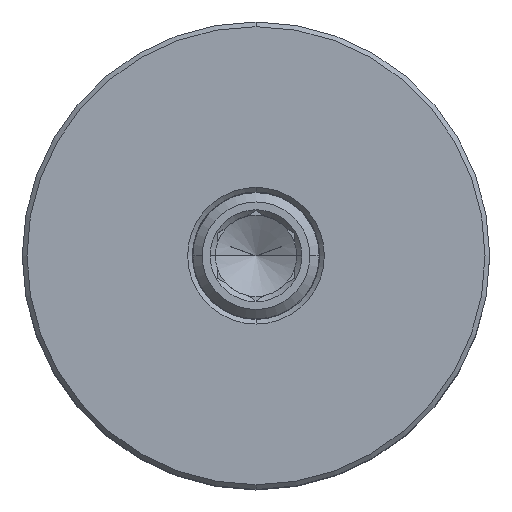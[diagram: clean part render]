
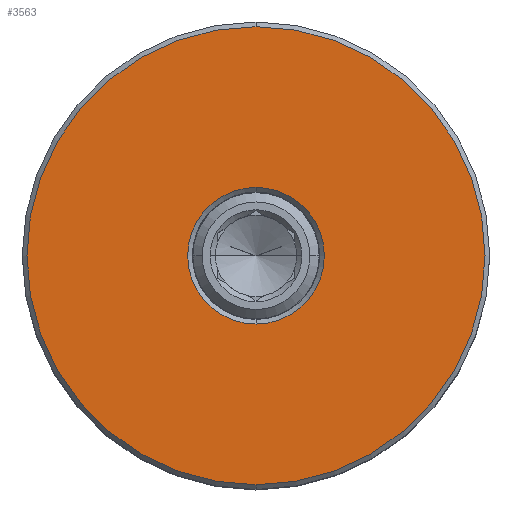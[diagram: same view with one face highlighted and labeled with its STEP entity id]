
A CAD part, top view. The second image highlights one B-rep face of the part: STEP entity #3563.
In plain terms, the highlighted planar face has unit normal (0, 0, 1).
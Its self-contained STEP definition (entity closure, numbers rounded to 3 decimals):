
#1142=CARTESIAN_POINT('',(0.,0.,78.002));
#1143=DIRECTION('',(0.,0.,-1.));
#1144=DIRECTION('',(0.,-1.,0.));
#1145=AXIS2_PLACEMENT_3D('',#1142,#1143,#1144);
#1147=CARTESIAN_POINT('',(0.,0.,78.002));
#1148=DIRECTION('',(0.,0.,-1.));
#1149=DIRECTION('',(0.,1.,0.));
#1150=AXIS2_PLACEMENT_3D('',#1147,#1148,#1149);
#1152=CARTESIAN_POINT('',(0.,0.,78.002));
#1153=DIRECTION('',(0.,0.,1.));
#1154=DIRECTION('',(0.,1.,0.));
#1155=AXIS2_PLACEMENT_3D('',#1152,#1153,#1154);
#1157=CARTESIAN_POINT('',(0.,0.,78.002));
#1158=DIRECTION('',(0.,0.,1.));
#1159=DIRECTION('',(0.,-1.,0.));
#1160=AXIS2_PLACEMENT_3D('',#1157,#1158,#1159);
#1901=CARTESIAN_POINT('',(0.,18.669,78.002));
#1902=CARTESIAN_POINT('',(0.,-18.669,78.002));
#1903=VERTEX_POINT('',#1901);
#1904=VERTEX_POINT('',#1902);
#1905=CARTESIAN_POINT('',(0.,5.569,78.002));
#1906=CARTESIAN_POINT('',(0.,-5.569,78.002));
#1907=VERTEX_POINT('',#1905);
#1908=VERTEX_POINT('',#1906);
#3547=CARTESIAN_POINT('',(0.,0.,78.002));
#3548=DIRECTION('',(0.,0.,-1.));
#3549=DIRECTION('',(0.,-1.,0.));
#3550=AXIS2_PLACEMENT_3D('',#3547,#3548,#3549);
#3551=PLANE('',#3550);
#3553=ORIENTED_EDGE('',*,*,#3552,.T.);
#3554=ORIENTED_EDGE('',*,*,#3537,.T.);
#3555=EDGE_LOOP('',(#3553,#3554));
#3556=FACE_OUTER_BOUND('',#3555,.F.);
#3558=ORIENTED_EDGE('',*,*,#3557,.T.);
#3560=ORIENTED_EDGE('',*,*,#3559,.T.);
#3561=EDGE_LOOP('',(#3558,#3560));
#3562=FACE_BOUND('',#3561,.F.);
#3563=ADVANCED_FACE('',(#3556,#3562),#3551,.F.);
#1146=CIRCLE('',#1145,18.669);
#1151=CIRCLE('',#1150,18.669);
#1156=CIRCLE('',#1155,5.569);
#1161=CIRCLE('',#1160,5.569);
#3537=EDGE_CURVE('',#1903,#1904,#1151,.T.);
#3552=EDGE_CURVE('',#1904,#1903,#1146,.T.);
#3557=EDGE_CURVE('',#1907,#1908,#1156,.T.);
#3559=EDGE_CURVE('',#1908,#1907,#1161,.T.);
